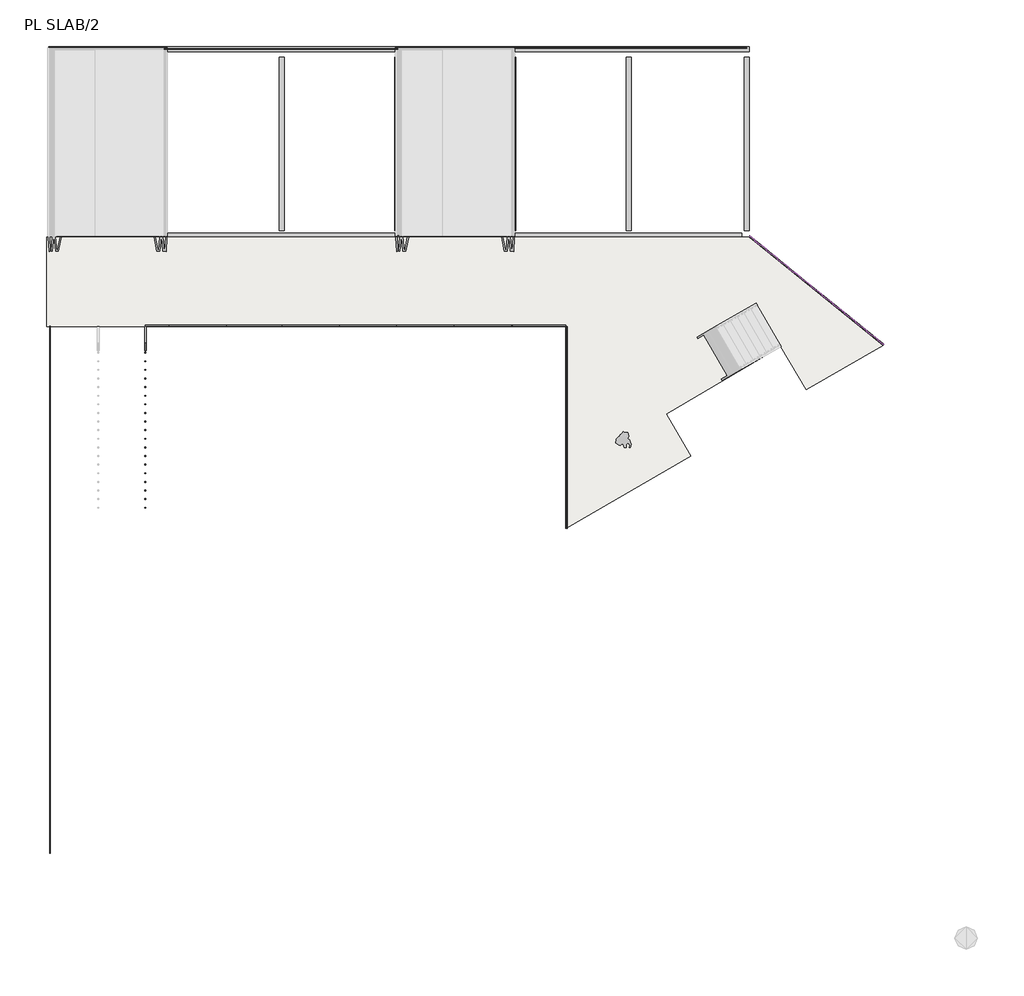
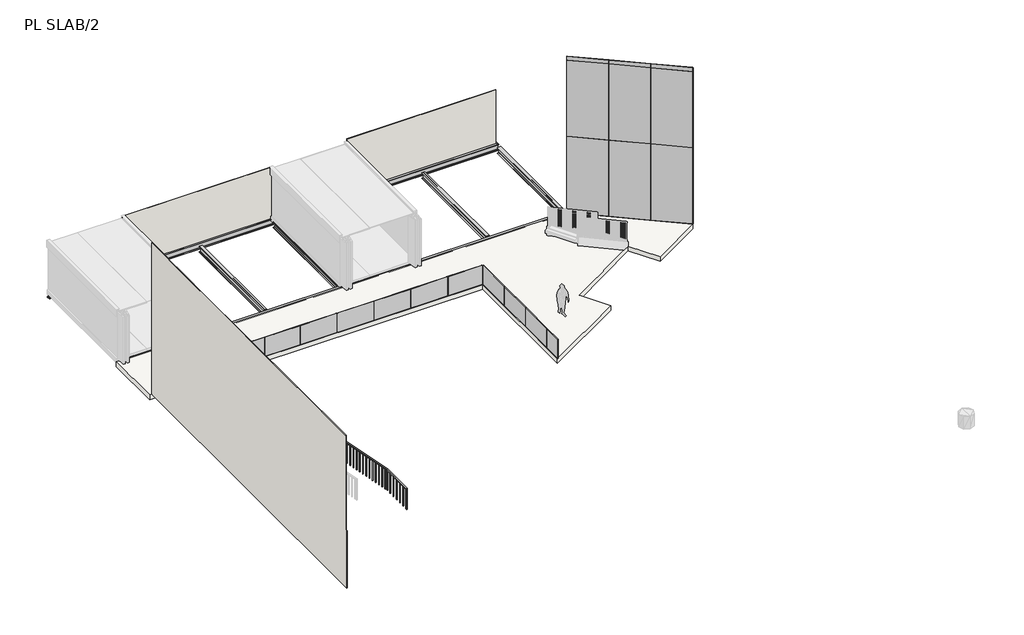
# One storey, part 1 of 2: 25 plates, 7 beams, 3 walls, 1 railing, 1 slab.
"""IFC4 building model written with IfcOpenShell, lengths in millimetres."""

from ifc_helpers import new_model, si_unit, frame, origin, place, context, project, spatial, polyline, outline, extrude, faceted_brep, transform, mapped, element, save
from components import ub_universal_beams_ub305x165x40_a89eb652, ub_universal_beams_ub305x165x40_de42b84e, ub_universal_beams_ub305x165x40_bd95d4e6, system_panel_glazed_66cf68f7, system_panel_glazed_c6e9b6dd, system_panel_glazed_a0877fd3, system_panel_glazed_3ddc4d3d, system_panel_glazed_1c1d8f5b, system_panel_glazed_525ed004, system_panel_glazed_75f56514, system_panel_glazed_65586980, system_panel_glazed_ac56bfe5, system_panel_glazed_b6ab2c9f

model = new_model("IFC4")

# Units and contexts
model_context = context("Model", 3, world=origin())
ifc_project = project(units=[si_unit("LENGTHUNIT", "METRE", prefix="MILLI")], contexts=[model_context])

# Site, building, storey
site = spatial("IfcSite", under=ifc_project)
building = spatial("IfcBuilding", under=site)
storey = spatial("IfcBuildingStorey", under=building, Name="PL SLAB/2", Elevation=3300.0)

# Beams
placement = place(None, origin())
ub_universal_beams_ub305x165x40_shape = ub_universal_beams_ub305x165x40_a89eb652(model_context)
element("IfcBeam", 1, ObjectType="UB-Universal Beams : UB305x165x40", at=placement, inside=storey, context=model_context, shape_type="MappedRepresentation", body=[
    mapped(ub_universal_beams_ub305x165x40_shape, transform((3293.8958184, 35151.9809735, 3148.3), x_axis=(1.0, 0.0, 0.0), y_axis=(0.0, 1.0, 0.0), z_axis=(0.0, 0.0, 1.0))),
])
ub_universal_beams_ub305x165x40_2_shape = ub_universal_beams_ub305x165x40_de42b84e(model_context)
element("IfcBeam", 2, ObjectType="UB-Universal Beams : UB305x165x40", at=placement, inside=storey, context=model_context, shape_type="MappedRepresentation", body=[
    mapped(ub_universal_beams_ub305x165x40_2_shape, transform((-2187.5596017, 29190.0288254, 3148.3), x_axis=(1.0, 0.0, 0.0), y_axis=(0.0, 1.0, 0.0), z_axis=(0.0, 0.0, 1.0))),
])
ub_universal_beams_ub305x165x40_3_shape = ub_universal_beams_ub305x165x40_bd95d4e6(model_context)
element("IfcBeam", 3, ObjectType="UB-Universal Beams : UB305x165x40", at=placement, inside=storey, context=model_context, shape_type="MappedRepresentation", body=[
    mapped(ub_universal_beams_ub305x165x40_3_shape, transform((-5929.1066547, 32121.0048994, 3148.3), x_axis=(0.0, -1.0, 0.0), y_axis=(1.0, 0.0, 0.0), z_axis=(0.0, 0.0, 1.0))),
])
element("IfcBeam", 4, ObjectType="UB-Universal Beams : UB305x165x40", at=placement, inside=storey, context=model_context, shape_type="MappedRepresentation", body=[
    mapped(ub_universal_beams_ub305x165x40_3_shape, transform((-2245.9725728, 32121.0048994, 3148.3), x_axis=(0.0, -1.0, 0.0), y_axis=(1.0, 0.0, 0.0), z_axis=(0.0, 0.0, 1.0))),
])
element("IfcBeam", 5, ObjectType="UB-Universal Beams : UB305x165x40", at=placement, inside=storey, context=model_context, shape_type="MappedRepresentation", body=[
    mapped(ub_universal_beams_ub305x165x40_3_shape, transform((1448.4037035, 32121.0048994, 3148.3), x_axis=(0.0, -1.0, 0.0), y_axis=(1.0, 0.0, 0.0), z_axis=(0.0, 0.0, 1.0))),
])
element("IfcBeam", 6, ObjectType="UB-Universal Beams : UB305x165x40", at=placement, inside=storey, context=model_context, shape_type="MappedRepresentation", body=[
    mapped(ub_universal_beams_ub305x165x40_3_shape, transform((5139.3879332, 32121.0048994, 3148.3), x_axis=(0.0, -1.0, 0.0), y_axis=(1.0, 0.0, 0.0), z_axis=(0.0, 0.0, 1.0))),
])
element("IfcBeam", 7, ObjectType="UB-Universal Beams : UB305x165x40", at=placement, inside=storey, context=model_context, shape_type="MappedRepresentation", body=[
    mapped(ub_universal_beams_ub305x165x40_3_shape, transform((8901.9425222, 32121.0048994, 3148.3), x_axis=(0.0, -1.0, 0.0), y_axis=(1.0, 0.0, 0.0), z_axis=(0.0, 0.0, 1.0))),
])

# Plates
system_panel_glazed_shape = system_panel_glazed_66cf68f7(model_context)
element("IfcPlate", 8, ObjectType="System Panel : Glazed", at=placement, inside=storey, context=model_context, shape_type="MappedRepresentation", body=[
    mapped(system_panel_glazed_shape, transform((9680.2491906, 28580.5191586, 3300.0), x_axis=(0.7768471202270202, -0.6296892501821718, 0.0), y_axis=(0.6296892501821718, 0.7768471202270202, 0.0), z_axis=(0.0, 0.0, 1.0))),
])
element("IfcPlate", 9, ObjectType="System Panel : Glazed", at=placement, inside=storey, context=model_context, shape_type="MappedRepresentation", body=[
    mapped(system_panel_glazed_shape, transform((11101.8794208, 27428.1878307, 3300.0), x_axis=(0.7768471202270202, -0.6296892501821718, 0.0), y_axis=(0.6296892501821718, 0.7768471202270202, 0.0), z_axis=(0.0, 0.0, 1.0))),
])
element("IfcPlate", 10, ObjectType="System Panel : Glazed", at=placement, inside=storey, context=model_context, shape_type="MappedRepresentation", body=[
    mapped(system_panel_glazed_shape, transform((12523.5096508, 26275.8565028, 3300.0), x_axis=(0.7768471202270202, -0.6296892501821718, 0.0), y_axis=(0.6296892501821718, 0.7768471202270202, 0.0), z_axis=(0.0, 0.0, 1.0))),
])
element("IfcPlate", 11, ObjectType="System Panel : Glazed", at=placement, inside=storey, context=model_context, shape_type="MappedRepresentation", body=[
    mapped(system_panel_glazed_shape, transform((9680.2491906, 28580.5191586, 7300.0), x_axis=(0.7768471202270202, -0.6296892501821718, 0.0), y_axis=(0.6296892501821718, 0.7768471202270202, 0.0), z_axis=(0.0, 0.0, 1.0))),
])
element("IfcPlate", 12, ObjectType="System Panel : Glazed", at=placement, inside=storey, context=model_context, shape_type="MappedRepresentation", body=[
    mapped(system_panel_glazed_shape, transform((11101.8794208, 27428.1878307, 7300.0), x_axis=(0.7768471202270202, -0.6296892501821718, 0.0), y_axis=(0.6296892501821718, 0.7768471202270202, 0.0), z_axis=(0.0, 0.0, 1.0))),
])
element("IfcPlate", 13, ObjectType="System Panel : Glazed", at=placement, inside=storey, context=model_context, shape_type="MappedRepresentation", body=[
    mapped(system_panel_glazed_shape, transform((12523.5096508, 26275.8565028, 7300.0), x_axis=(0.7768471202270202, -0.6296892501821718, 0.0), y_axis=(0.6296892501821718, 0.7768471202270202, 0.0), z_axis=(0.0, 0.0, 1.0))),
])
system_panel_glazed_2_shape = system_panel_glazed_c6e9b6dd(model_context)
element("IfcPlate", 14, ObjectType="System Panel : Glazed", at=placement, inside=storey, context=model_context, shape_type="MappedRepresentation", body=[
    mapped(system_panel_glazed_2_shape, transform((-9906.8179811, 26292.1681881, 3300.0), x_axis=(1.0, 0.0, 0.0), y_axis=(0.0, 1.0, 0.0), z_axis=(0.0, 0.0, 1.0))),
])
system_panel_glazed_3_shape = system_panel_glazed_a0877fd3(model_context)
element("IfcPlate", 15, ObjectType="System Panel : Glazed", at=placement, inside=storey, context=model_context, shape_type="MappedRepresentation", body=[
    mapped(system_panel_glazed_3_shape, transform((-8616.6874982, 26292.1681881, 3300.0), x_axis=(1.0, 0.0, 0.0), y_axis=(0.0, 1.0, 0.0), z_axis=(0.0, 0.0, 1.0))),
])
element("IfcPlate", 16, ObjectType="System Panel : Glazed", at=placement, inside=storey, context=model_context, shape_type="MappedRepresentation", body=[
    mapped(system_panel_glazed_3_shape, transform((-5016.6874982, 26292.1681881, 3300.0), x_axis=(1.0, 0.0, 0.0), y_axis=(0.0, 1.0, 0.0), z_axis=(0.0, 0.0, 1.0))),
])
element("IfcPlate", 17, ObjectType="System Panel : Glazed", at=placement, inside=storey, context=model_context, shape_type="MappedRepresentation", body=[
    mapped(system_panel_glazed_3_shape, transform((-3186.6874982, 26292.1681881, 3300.0), x_axis=(1.0, 0.0, 0.0), y_axis=(0.0, 1.0, 0.0), z_axis=(0.0, 0.0, 1.0))),
])
element("IfcPlate", 18, ObjectType="System Panel : Glazed", at=placement, inside=storey, context=model_context, shape_type="MappedRepresentation", body=[
    mapped(system_panel_glazed_3_shape, transform((-1356.6874982, 26292.1681881, 3300.0), x_axis=(1.0, 0.0, 0.0), y_axis=(0.0, 1.0, 0.0), z_axis=(0.0, 0.0, 1.0))),
])
element("IfcPlate", 19, ObjectType="System Panel : Glazed", at=placement, inside=storey, context=model_context, shape_type="MappedRepresentation", body=[
    mapped(system_panel_glazed_3_shape, transform((473.312502, 26292.1681881, 3300.0), x_axis=(1.0, 0.0, 0.0), y_axis=(0.0, 1.0, 0.0), z_axis=(0.0, 0.0, 1.0))),
])
element("IfcPlate", 20, ObjectType="System Panel : Glazed", at=placement, inside=storey, context=model_context, shape_type="MappedRepresentation", body=[
    mapped(system_panel_glazed_3_shape, transform((3132.0366131, 25377.1681879, 3300.0), x_axis=(0.0, -1.0, 0.0), y_axis=(1.0, 0.0, 0.0), z_axis=(0.0, 0.0, 1.0))),
])
element("IfcPlate", 21, ObjectType="System Panel : Glazed", at=placement, inside=storey, context=model_context, shape_type="MappedRepresentation", body=[
    mapped(system_panel_glazed_3_shape, transform((3132.0366131, 23547.1681878, 3300.0), x_axis=(0.0, -1.0, 0.0), y_axis=(1.0, 0.0, 0.0), z_axis=(0.0, 0.0, 1.0))),
])
element("IfcPlate", 22, ObjectType="System Panel : Glazed", at=placement, inside=storey, context=model_context, shape_type="MappedRepresentation", body=[
    mapped(system_panel_glazed_3_shape, transform((3132.0366131, 21717.1681878, 3300.0), x_axis=(0.0, -1.0, 0.0), y_axis=(1.0, 0.0, 0.0), z_axis=(0.0, 0.0, 1.0))),
])
system_panel_glazed_4_shape = system_panel_glazed_3ddc4d3d(model_context)
element("IfcPlate", 23, ObjectType="System Panel : Glazed", at=placement, inside=storey, context=model_context, shape_type="MappedRepresentation", body=[
    mapped(system_panel_glazed_4_shape, transform((-6816.6874982, 26292.1681881, 3300.0), x_axis=(1.0, 0.0, 0.0), y_axis=(0.0, 1.0, 0.0), z_axis=(0.0, 0.0, 1.0))),
])
system_panel_glazed_5_shape = system_panel_glazed_1c1d8f5b(model_context)
element("IfcPlate", 24, ObjectType="System Panel : Glazed", at=placement, inside=storey, context=model_context, shape_type="MappedRepresentation", body=[
    mapped(system_panel_glazed_5_shape, transform((1408.3125018, 26292.1681881, 3300.0), x_axis=(1.0, 0.0, 0.0), y_axis=(0.0, 1.0, 0.0), z_axis=(0.0, 0.0, 1.0))),
])
system_panel_glazed_6_shape = system_panel_glazed_525ed004(model_context)
element("IfcPlate", 25, ObjectType="System Panel : Glazed", at=placement, inside=storey, context=model_context, shape_type="MappedRepresentation", body=[
    mapped(system_panel_glazed_6_shape, transform((2280.1745574, 26292.1681881, 3300.0), x_axis=(1.0, 0.0, 0.0), y_axis=(0.0, 1.0, 0.0), z_axis=(0.0, 0.0, 1.0))),
])
system_panel_glazed_7_shape = system_panel_glazed_75f56514(model_context)
element("IfcPlate", 26, ObjectType="System Panel : Glazed", at=placement, inside=storey, context=model_context, shape_type="MappedRepresentation", body=[
    mapped(system_panel_glazed_7_shape, transform((3132.0366131, 20331.6230881, 3300.0), x_axis=(0.0, -1.0, 0.0), y_axis=(1.0, 0.0, 0.0), z_axis=(0.0, 0.0, 1.0))),
])
system_panel_glazed_8_shape = system_panel_glazed_65586980(model_context)
element("IfcPlate", 27, ObjectType="System Panel : Glazed", at=placement, inside=storey, context=model_context, shape_type="MappedRepresentation", body=[
    mapped(system_panel_glazed_8_shape, transform((13236.50575, 25697.9229977, 3300.0), x_axis=(0.7768471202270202, -0.6296892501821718, 0.0), y_axis=(0.6296892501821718, 0.7768471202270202, 0.0), z_axis=(0.0, 0.0, 1.0))),
])
element("IfcPlate", 28, ObjectType="System Panel : Glazed", at=placement, inside=storey, context=model_context, shape_type="MappedRepresentation", body=[
    mapped(system_panel_glazed_8_shape, transform((13236.50575, 25697.9229977, 7300.0), x_axis=(0.7768471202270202, -0.6296892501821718, 0.0), y_axis=(0.6296892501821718, 0.7768471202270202, 0.0), z_axis=(0.0, 0.0, 1.0))),
])
system_panel_glazed_9_shape = system_panel_glazed_ac56bfe5(model_context)
element("IfcPlate", 29, ObjectType="System Panel : Glazed", at=placement, inside=storey, context=model_context, shape_type="MappedRepresentation", body=[
    mapped(system_panel_glazed_9_shape, transform((9680.2491906, 28580.5191586, 11300.0), x_axis=(0.7768471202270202, -0.6296892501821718, 0.0), y_axis=(0.6296892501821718, 0.7768471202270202, 0.0), z_axis=(0.0, 0.0, 1.0))),
])
element("IfcPlate", 30, ObjectType="System Panel : Glazed", at=placement, inside=storey, context=model_context, shape_type="MappedRepresentation", body=[
    mapped(system_panel_glazed_9_shape, transform((11101.8794208, 27428.1878307, 11300.0), x_axis=(0.7768471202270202, -0.6296892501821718, 0.0), y_axis=(0.6296892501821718, 0.7768471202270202, 0.0), z_axis=(0.0, 0.0, 1.0))),
])
element("IfcPlate", 31, ObjectType="System Panel : Glazed", at=placement, inside=storey, context=model_context, shape_type="MappedRepresentation", body=[
    mapped(system_panel_glazed_9_shape, transform((12523.5096508, 26275.8565028, 11300.0), x_axis=(0.7768471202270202, -0.6296892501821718, 0.0), y_axis=(0.6296892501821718, 0.7768471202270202, 0.0), z_axis=(0.0, 0.0, 1.0))),
])
system_panel_glazed_10_shape = system_panel_glazed_b6ab2c9f(model_context)
element("IfcPlate", 32, ObjectType="System Panel : Glazed", at=placement, inside=storey, context=model_context, shape_type="MappedRepresentation", body=[
    mapped(system_panel_glazed_10_shape, transform((13236.50575, 25697.9229977, 11300.0), x_axis=(0.7768471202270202, -0.6296892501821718, 0.0), y_axis=(0.6296892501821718, 0.7768471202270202, 0.0), z_axis=(0.0, 0.0, 1.0))),
])

# Railing
element("IfcRailing", 33, ObjectType="1100mm", at=placement, inside=storey, context=model_context, shape_type="SolidModel", body=[
    faceted_brep([(-10256.9484639, 26292.1681881, 4400.0), (-10256.9484639, 26292.1681881, 4349.0100845), (-10306.9484639, 26292.1681881, 4349.0100845), (-10306.9484639, 26292.1681881, 4400.0), (-10256.9484639, 11290.0288254, 7400.0), (-10256.9484639, 11285.078542, 7350.0), (-10306.9484639, 11285.078542, 7350.0), (-10306.9484639, 11290.0288254, 7400.0), (-10256.9484639, 9590.0288254, 7400.0), (-10306.9484639, 9590.0288254, 7400.0), (-10306.9484639, 9590.0288254, 7350.0), (-10256.9484639, 9590.0288254, 7350.0)], [[[0, 1, 2, 3]], [[1, 0, 4, 5]], [[2, 1, 5, 6]], [[3, 2, 6, 7]], [[0, 3, 7, 4]], [[8, 9, 10, 11]], [[5, 4, 8, 11]], [[6, 5, 11, 10]], [[7, 6, 10, 9]], [[4, 7, 9, 8]]]),
    extrude(outline(polyline([(-10294.4484639, 9652.5288254), (-10269.4484639, 9652.5288254), (-10269.4484639, 9627.5288254), (-10294.4484639, 9627.5288254), (-10294.4484639, 9652.5288254)])), frame((0.0, 0.0, 6300.0), z_axis=(0.0, 0.0, 1.0), x_axis=(1.0, 0.0, 0.0)), (0.0, 0.0, 1.0), 1050.0),
    extrude(outline(polyline([(-10294.4484639, 9927.5288254), (-10269.4484639, 9927.5288254), (-10269.4484639, 9902.5288254), (-10294.4484639, 9902.5288254), (-10294.4484639, 9927.5288254)])), frame((0.0, 0.0, 6300.0), z_axis=(0.0, 0.0, 1.0), x_axis=(1.0, 0.0, 0.0)), (0.0, 0.0, 1.0), 1050.0),
    extrude(outline(polyline([(-10294.4484639, 10202.5288254), (-10269.4484639, 10202.5288254), (-10269.4484639, 10177.5288254), (-10294.4484639, 10177.5288254), (-10294.4484639, 10202.5288254)])), frame((0.0, 0.0, 6300.0), z_axis=(0.0, 0.0, 1.0), x_axis=(1.0, 0.0, 0.0)), (0.0, 0.0, 1.0), 1050.0),
    extrude(outline(polyline([(-10294.4484639, 10477.5288254), (-10269.4484639, 10477.5288254), (-10269.4484639, 10452.5288254), (-10294.4484639, 10452.5288254), (-10294.4484639, 10477.5288254)])), frame((0.0, 0.0, 6300.0), z_axis=(0.0, 0.0, 1.0), x_axis=(1.0, 0.0, 0.0)), (0.0, 0.0, 1.0), 1050.0),
    extrude(outline(polyline([(-10294.4484639, 10752.5288254), (-10269.4484639, 10752.5288254), (-10269.4484639, 10727.5288254), (-10294.4484639, 10727.5288254), (-10294.4484639, 10752.5288254)])), frame((0.0, 0.0, 6300.0), z_axis=(0.0, 0.0, 1.0), x_axis=(1.0, 0.0, 0.0)), (0.0, 0.0, 1.0), 1050.0),
    extrude(outline(polyline([(-10294.4484639, 11027.5288254), (-10269.4484639, 11027.5288254), (-10269.4484639, 11002.5288254), (-10294.4484639, 11002.5288254), (-10294.4484639, 11027.5288254)])), frame((0.0, 0.0, 6300.0), z_axis=(0.0, 0.0, 1.0), x_axis=(1.0, 0.0, 0.0)), (0.0, 0.0, 1.0), 1050.0),
    extrude(outline(polyline([(11454.6681881, 7316.0869076), (11454.6681881, 6269.5764666), (11429.6681881, 6269.5764666), (11429.6681881, 7321.0861946), (11454.6681881, 7316.0869076)])), frame((-10294.4484639, 0.0, 0.0), z_axis=(1.0, 0.0, 0.0), x_axis=(0.0, 1.0, 0.0)), (0.0, 0.0, 1.0), 25.0),
    extrude(outline(polyline([(11729.6681881, 7261.0947508), (11729.6681881, 6214.5843098), (11704.6681881, 6214.5843098), (11704.6681881, 7266.0940378), (11729.6681881, 7261.0947508)])), frame((-10294.4484639, 0.0, 0.0), z_axis=(1.0, 0.0, 0.0), x_axis=(0.0, 1.0, 0.0)), (0.0, 0.0, 1.0), 25.0),
    extrude(outline(polyline([(12004.6681881, 7206.102594), (12004.6681881, 6159.592153), (11979.6681881, 6159.592153), (11979.6681881, 7211.101881), (12004.6681881, 7206.102594)])), frame((-10294.4484639, 0.0, 0.0), z_axis=(1.0, 0.0, 0.0), x_axis=(0.0, 1.0, 0.0)), (0.0, 0.0, 1.0), 25.0),
    extrude(outline(polyline([(12279.6681881, 7151.1104373), (12279.6681881, 6104.5999962), (12254.6681881, 6104.5999962), (12254.6681881, 7156.1097242), (12279.6681881, 7151.1104373)])), frame((-10294.4484639, 0.0, 0.0), z_axis=(1.0, 0.0, 0.0), x_axis=(0.0, 1.0, 0.0)), (0.0, 0.0, 1.0), 25.0),
    extrude(outline(polyline([(12554.6681881, 7096.1182805), (12554.6681881, 6049.6078394), (12529.6681881, 6049.6078394), (12529.6681881, 7101.1175675), (12554.6681881, 7096.1182805)])), frame((-10294.4484639, 0.0, 0.0), z_axis=(1.0, 0.0, 0.0), x_axis=(0.0, 1.0, 0.0)), (0.0, 0.0, 1.0), 25.0),
    extrude(outline(polyline([(12829.6681881, 7041.1261237), (12829.6681881, 5994.6156827), (12804.6681881, 5994.6156827), (12804.6681881, 7046.1254107), (12829.6681881, 7041.1261237)])), frame((-10294.4484639, 0.0, 0.0), z_axis=(1.0, 0.0, 0.0), x_axis=(0.0, 1.0, 0.0)), (0.0, 0.0, 1.0), 25.0),
    extrude(outline(polyline([(13104.6681881, 6986.1339669), (13104.6681881, 5939.6235259), (13079.6681881, 5939.6235259), (13079.6681881, 6991.1332539), (13104.6681881, 6986.1339669)])), frame((-10294.4484639, 0.0, 0.0), z_axis=(1.0, 0.0, 0.0), x_axis=(0.0, 1.0, 0.0)), (0.0, 0.0, 1.0), 25.0),
    extrude(outline(polyline([(13379.6681881, 6931.1418101), (13379.6681881, 5884.6313691), (13354.6681881, 5884.6313691), (13354.6681881, 6936.1410971), (13379.6681881, 6931.1418101)])), frame((-10294.4484639, 0.0, 0.0), z_axis=(1.0, 0.0, 0.0), x_axis=(0.0, 1.0, 0.0)), (0.0, 0.0, 1.0), 25.0),
    extrude(outline(polyline([(13654.6681881, 6876.1496533), (13654.6681881, 5829.6392123), (13629.6681881, 5829.6392123), (13629.6681881, 6881.1489403), (13654.6681881, 6876.1496533)])), frame((-10294.4484639, 0.0, 0.0), z_axis=(1.0, 0.0, 0.0), x_axis=(0.0, 1.0, 0.0)), (0.0, 0.0, 1.0), 25.0),
    extrude(outline(polyline([(13929.6681881, 6821.1574965), (13929.6681881, 5774.6470555), (13904.6681881, 5774.6470555), (13904.6681881, 6826.1567835), (13929.6681881, 6821.1574965)])), frame((-10294.4484639, 0.0, 0.0), z_axis=(1.0, 0.0, 0.0), x_axis=(0.0, 1.0, 0.0)), (0.0, 0.0, 1.0), 25.0),
    extrude(outline(polyline([(14204.6681881, 6766.1653397), (14204.6681881, 5719.6548987), (14179.6681881, 5719.6548987), (14179.6681881, 6771.1646267), (14204.6681881, 6766.1653397)])), frame((-10294.4484639, 0.0, 0.0), z_axis=(1.0, 0.0, 0.0), x_axis=(0.0, 1.0, 0.0)), (0.0, 0.0, 1.0), 25.0),
    extrude(outline(polyline([(14479.6681881, 6711.1731829), (14479.6681881, 5664.6627419), (14454.6681881, 5664.6627419), (14454.6681881, 6716.1724699), (14479.6681881, 6711.1731829)])), frame((-10294.4484639, 0.0, 0.0), z_axis=(1.0, 0.0, 0.0), x_axis=(0.0, 1.0, 0.0)), (0.0, 0.0, 1.0), 25.0),
    extrude(outline(polyline([(14754.6681881, 6656.1810262), (14754.6681881, 5609.6705851), (14729.6681881, 5609.6705851), (14729.6681881, 6661.1803131), (14754.6681881, 6656.1810262)])), frame((-10294.4484639, 0.0, 0.0), z_axis=(1.0, 0.0, 0.0), x_axis=(0.0, 1.0, 0.0)), (0.0, 0.0, 1.0), 25.0),
    extrude(outline(polyline([(15029.6681881, 6601.1888694), (15029.6681881, 5554.6784283), (15004.6681881, 5554.6784283), (15004.6681881, 6606.1881564), (15029.6681881, 6601.1888694)])), frame((-10294.4484639, 0.0, 0.0), z_axis=(1.0, 0.0, 0.0), x_axis=(0.0, 1.0, 0.0)), (0.0, 0.0, 1.0), 25.0),
    extrude(outline(polyline([(15304.6681881, 6546.1967126), (15304.6681881, 5499.6862716), (15279.6681881, 5499.6862716), (15279.6681881, 6551.1959996), (15304.6681881, 6546.1967126)])), frame((-10294.4484639, 0.0, 0.0), z_axis=(1.0, 0.0, 0.0), x_axis=(0.0, 1.0, 0.0)), (0.0, 0.0, 1.0), 25.0),
    extrude(outline(polyline([(15579.6681881, 6491.2045558), (15579.6681881, 5444.6941148), (15554.6681881, 5444.6941148), (15554.6681881, 6496.2038428), (15579.6681881, 6491.2045558)])), frame((-10294.4484639, 0.0, 0.0), z_axis=(1.0, 0.0, 0.0), x_axis=(0.0, 1.0, 0.0)), (0.0, 0.0, 1.0), 25.0),
    extrude(outline(polyline([(15854.6681881, 6436.212399), (15854.6681881, 5389.701958), (15829.6681881, 5389.701958), (15829.6681881, 6441.211686), (15854.6681881, 6436.212399)])), frame((-10294.4484639, 0.0, 0.0), z_axis=(1.0, 0.0, 0.0), x_axis=(0.0, 1.0, 0.0)), (0.0, 0.0, 1.0), 25.0),
    extrude(outline(polyline([(16129.6681881, 6381.2202422), (16129.6681881, 5334.7098012), (16104.6681881, 5334.7098012), (16104.6681881, 6386.2195292), (16129.6681881, 6381.2202422)])), frame((-10294.4484639, 0.0, 0.0), z_axis=(1.0, 0.0, 0.0), x_axis=(0.0, 1.0, 0.0)), (0.0, 0.0, 1.0), 25.0),
    extrude(outline(polyline([(16404.6681881, 6326.2280854), (16404.6681881, 5279.7176444), (16379.6681881, 5279.7176444), (16379.6681881, 6331.2273724), (16404.6681881, 6326.2280854)])), frame((-10294.4484639, 0.0, 0.0), z_axis=(1.0, 0.0, 0.0), x_axis=(0.0, 1.0, 0.0)), (0.0, 0.0, 1.0), 25.0),
    extrude(outline(polyline([(16679.6681881, 6271.2359286), (16679.6681881, 5224.7254876), (16654.6681881, 5224.7254876), (16654.6681881, 6276.2352156), (16679.6681881, 6271.2359286)])), frame((-10294.4484639, 0.0, 0.0), z_axis=(1.0, 0.0, 0.0), x_axis=(0.0, 1.0, 0.0)), (0.0, 0.0, 1.0), 25.0),
    extrude(outline(polyline([(16954.6681881, 6216.2437718), (16954.6681881, 5169.7333308), (16929.6681881, 5169.7333308), (16929.6681881, 6221.2430588), (16954.6681881, 6216.2437718)])), frame((-10294.4484639, 0.0, 0.0), z_axis=(1.0, 0.0, 0.0), x_axis=(0.0, 1.0, 0.0)), (0.0, 0.0, 1.0), 25.0),
    extrude(outline(polyline([(17229.6681881, 6161.2516151), (17229.6681881, 5114.741174), (17204.6681881, 5114.741174), (17204.6681881, 6166.250902), (17229.6681881, 6161.2516151)])), frame((-10294.4484639, 0.0, 0.0), z_axis=(1.0, 0.0, 0.0), x_axis=(0.0, 1.0, 0.0)), (0.0, 0.0, 1.0), 25.0),
    extrude(outline(polyline([(17504.6681881, 6106.2594583), (17504.6681881, 5059.7490172), (17479.6681881, 5059.7490172), (17479.6681881, 6111.2587452), (17504.6681881, 6106.2594583)])), frame((-10294.4484639, 0.0, 0.0), z_axis=(1.0, 0.0, 0.0), x_axis=(0.0, 1.0, 0.0)), (0.0, 0.0, 1.0), 25.0),
    extrude(outline(polyline([(17779.6681881, 6051.2673015), (17779.6681881, 5004.7568605), (17754.6681881, 5004.7568605), (17754.6681881, 6056.2665885), (17779.6681881, 6051.2673015)])), frame((-10294.4484639, 0.0, 0.0), z_axis=(1.0, 0.0, 0.0), x_axis=(0.0, 1.0, 0.0)), (0.0, 0.0, 1.0), 25.0),
    extrude(outline(polyline([(18054.6681881, 5996.2751447), (18054.6681881, 4949.7647037), (18029.6681881, 4949.7647037), (18029.6681881, 6001.2744317), (18054.6681881, 5996.2751447)])), frame((-10294.4484639, 0.0, 0.0), z_axis=(1.0, 0.0, 0.0), x_axis=(0.0, 1.0, 0.0)), (0.0, 0.0, 1.0), 25.0),
    extrude(outline(polyline([(18329.6681881, 5941.2829879), (18329.6681881, 4894.7725469), (18304.6681881, 4894.7725469), (18304.6681881, 5946.2822749), (18329.6681881, 5941.2829879)])), frame((-10294.4484639, 0.0, 0.0), z_axis=(1.0, 0.0, 0.0), x_axis=(0.0, 1.0, 0.0)), (0.0, 0.0, 1.0), 25.0),
    extrude(outline(polyline([(18604.6681881, 5886.2908311), (18604.6681881, 4839.7803901), (18579.6681881, 4839.7803901), (18579.6681881, 5891.2901181), (18604.6681881, 5886.2908311)])), frame((-10294.4484639, 0.0, 0.0), z_axis=(1.0, 0.0, 0.0), x_axis=(0.0, 1.0, 0.0)), (0.0, 0.0, 1.0), 25.0),
    extrude(outline(polyline([(18879.6681881, 5831.2986743), (18879.6681881, 4784.7882333), (18854.6681881, 4784.7882333), (18854.6681881, 5836.2979613), (18879.6681881, 5831.2986743)])), frame((-10294.4484639, 0.0, 0.0), z_axis=(1.0, 0.0, 0.0), x_axis=(0.0, 1.0, 0.0)), (0.0, 0.0, 1.0), 25.0),
    extrude(outline(polyline([(19154.6681881, 5776.3065175), (19154.6681881, 4729.7960765), (19129.6681881, 4729.7960765), (19129.6681881, 5781.3058045), (19154.6681881, 5776.3065175)])), frame((-10294.4484639, 0.0, 0.0), z_axis=(1.0, 0.0, 0.0), x_axis=(0.0, 1.0, 0.0)), (0.0, 0.0, 1.0), 25.0),
    extrude(outline(polyline([(19429.6681881, 5721.3143607), (19429.6681881, 4674.8039197), (19404.6681881, 4674.8039197), (19404.6681881, 5726.3136477), (19429.6681881, 5721.3143607)])), frame((-10294.4484639, 0.0, 0.0), z_axis=(1.0, 0.0, 0.0), x_axis=(0.0, 1.0, 0.0)), (0.0, 0.0, 1.0), 25.0),
    extrude(outline(polyline([(19704.6681881, 5666.322204), (19704.6681881, 4619.8117629), (19679.6681881, 4619.8117629), (19679.6681881, 5671.3214909), (19704.6681881, 5666.322204)])), frame((-10294.4484639, 0.0, 0.0), z_axis=(1.0, 0.0, 0.0), x_axis=(0.0, 1.0, 0.0)), (0.0, 0.0, 1.0), 25.0),
    extrude(outline(polyline([(19979.6681881, 5611.3300472), (19979.6681881, 4564.8196061), (19954.6681881, 4564.8196061), (19954.6681881, 5616.3293341), (19979.6681881, 5611.3300472)])), frame((-10294.4484639, 0.0, 0.0), z_axis=(1.0, 0.0, 0.0), x_axis=(0.0, 1.0, 0.0)), (0.0, 0.0, 1.0), 25.0),
    extrude(outline(polyline([(20254.6681881, 5556.3378904), (20254.6681881, 4509.8274494), (20229.6681881, 4509.8274494), (20229.6681881, 5561.3371774), (20254.6681881, 5556.3378904)])), frame((-10294.4484639, 0.0, 0.0), z_axis=(1.0, 0.0, 0.0), x_axis=(0.0, 1.0, 0.0)), (0.0, 0.0, 1.0), 25.0),
    extrude(outline(polyline([(20529.6681881, 5501.3457336), (20529.6681881, 4454.8352926), (20504.6681881, 4454.8352926), (20504.6681881, 5506.3450206), (20529.6681881, 5501.3457336)])), frame((-10294.4484639, 0.0, 0.0), z_axis=(1.0, 0.0, 0.0), x_axis=(0.0, 1.0, 0.0)), (0.0, 0.0, 1.0), 25.0),
    extrude(outline(polyline([(20804.6681881, 5446.3535768), (20804.6681881, 4399.8431358), (20779.6681881, 4399.8431358), (20779.6681881, 5451.3528638), (20804.6681881, 5446.3535768)])), frame((-10294.4484639, 0.0, 0.0), z_axis=(1.0, 0.0, 0.0), x_axis=(0.0, 1.0, 0.0)), (0.0, 0.0, 1.0), 25.0),
    extrude(outline(polyline([(21079.6681881, 5391.36142), (21079.6681881, 4344.850979), (21054.6681881, 4344.850979), (21054.6681881, 5396.360707), (21079.6681881, 5391.36142)])), frame((-10294.4484639, 0.0, 0.0), z_axis=(1.0, 0.0, 0.0), x_axis=(0.0, 1.0, 0.0)), (0.0, 0.0, 1.0), 25.0),
    extrude(outline(polyline([(21354.6681881, 5336.3692632), (21354.6681881, 4289.8588222), (21329.6681881, 4289.8588222), (21329.6681881, 5341.3685502), (21354.6681881, 5336.3692632)])), frame((-10294.4484639, 0.0, 0.0), z_axis=(1.0, 0.0, 0.0), x_axis=(0.0, 1.0, 0.0)), (0.0, 0.0, 1.0), 25.0),
    extrude(outline(polyline([(21629.6681881, 5281.3771064), (21629.6681881, 4234.8666654), (21604.6681881, 4234.8666654), (21604.6681881, 5286.3763934), (21629.6681881, 5281.3771064)])), frame((-10294.4484639, 0.0, 0.0), z_axis=(1.0, 0.0, 0.0), x_axis=(0.0, 1.0, 0.0)), (0.0, 0.0, 1.0), 25.0),
    extrude(outline(polyline([(21904.6681881, 5226.3849496), (21904.6681881, 4179.8745086), (21879.6681881, 4179.8745086), (21879.6681881, 5231.3842366), (21904.6681881, 5226.3849496)])), frame((-10294.4484639, 0.0, 0.0), z_axis=(1.0, 0.0, 0.0), x_axis=(0.0, 1.0, 0.0)), (0.0, 0.0, 1.0), 25.0),
    extrude(outline(polyline([(22179.6681881, 5171.3927929), (22179.6681881, 4124.8823518), (22154.6681881, 4124.8823518), (22154.6681881, 5176.3920798), (22179.6681881, 5171.3927929)])), frame((-10294.4484639, 0.0, 0.0), z_axis=(1.0, 0.0, 0.0), x_axis=(0.0, 1.0, 0.0)), (0.0, 0.0, 1.0), 25.0),
    extrude(outline(polyline([(22454.6681881, 5116.4006361), (22454.6681881, 4069.890195), (22429.6681881, 4069.890195), (22429.6681881, 5121.399923), (22454.6681881, 5116.4006361)])), frame((-10294.4484639, 0.0, 0.0), z_axis=(1.0, 0.0, 0.0), x_axis=(0.0, 1.0, 0.0)), (0.0, 0.0, 1.0), 25.0),
    extrude(outline(polyline([(22729.6681881, 5061.4084793), (22729.6681881, 4014.8980383), (22704.6681881, 4014.8980383), (22704.6681881, 5066.4077663), (22729.6681881, 5061.4084793)])), frame((-10294.4484639, 0.0, 0.0), z_axis=(1.0, 0.0, 0.0), x_axis=(0.0, 1.0, 0.0)), (0.0, 0.0, 1.0), 25.0),
    extrude(outline(polyline([(23004.6681881, 5006.4163225), (23004.6681881, 3959.9058815), (22979.6681881, 3959.9058815), (22979.6681881, 5011.4156095), (23004.6681881, 5006.4163225)])), frame((-10294.4484639, 0.0, 0.0), z_axis=(1.0, 0.0, 0.0), x_axis=(0.0, 1.0, 0.0)), (0.0, 0.0, 1.0), 25.0),
    extrude(outline(polyline([(23279.6681881, 4951.4241657), (23279.6681881, 3904.9137247), (23254.6681881, 3904.9137247), (23254.6681881, 4956.4234527), (23279.6681881, 4951.4241657)])), frame((-10294.4484639, 0.0, 0.0), z_axis=(1.0, 0.0, 0.0), x_axis=(0.0, 1.0, 0.0)), (0.0, 0.0, 1.0), 25.0),
    extrude(outline(polyline([(23554.6681881, 4896.4320089), (23554.6681881, 3849.9215679), (23529.6681881, 3849.9215679), (23529.6681881, 4901.4312959), (23554.6681881, 4896.4320089)])), frame((-10294.4484639, 0.0, 0.0), z_axis=(1.0, 0.0, 0.0), x_axis=(0.0, 1.0, 0.0)), (0.0, 0.0, 1.0), 25.0),
    extrude(outline(polyline([(23829.6681881, 4841.4398521), (23829.6681881, 3794.9294111), (23804.6681881, 3794.9294111), (23804.6681881, 4846.4391391), (23829.6681881, 4841.4398521)])), frame((-10294.4484639, 0.0, 0.0), z_axis=(1.0, 0.0, 0.0), x_axis=(0.0, 1.0, 0.0)), (0.0, 0.0, 1.0), 25.0),
    extrude(outline(polyline([(24104.6681881, 4786.4476953), (24104.6681881, 3739.9372543), (24079.6681881, 3739.9372543), (24079.6681881, 4791.4469823), (24104.6681881, 4786.4476953)])), frame((-10294.4484639, 0.0, 0.0), z_axis=(1.0, 0.0, 0.0), x_axis=(0.0, 1.0, 0.0)), (0.0, 0.0, 1.0), 25.0),
    extrude(outline(polyline([(24379.6681881, 4731.4555385), (24379.6681881, 3684.9450975), (24354.6681881, 3684.9450975), (24354.6681881, 4736.4548255), (24379.6681881, 4731.4555385)])), frame((-10294.4484639, 0.0, 0.0), z_axis=(1.0, 0.0, 0.0), x_axis=(0.0, 1.0, 0.0)), (0.0, 0.0, 1.0), 25.0),
    extrude(outline(polyline([(24654.6681881, 4676.4633818), (24654.6681881, 3629.9529407), (24629.6681881, 3629.9529407), (24629.6681881, 4681.4626687), (24654.6681881, 4676.4633818)])), frame((-10294.4484639, 0.0, 0.0), z_axis=(1.0, 0.0, 0.0), x_axis=(0.0, 1.0, 0.0)), (0.0, 0.0, 1.0), 25.0),
    extrude(outline(polyline([(24929.6681881, 4621.471225), (24929.6681881, 3574.9607839), (24904.6681881, 3574.9607839), (24904.6681881, 4626.4705119), (24929.6681881, 4621.471225)])), frame((-10294.4484639, 0.0, 0.0), z_axis=(1.0, 0.0, 0.0), x_axis=(0.0, 1.0, 0.0)), (0.0, 0.0, 1.0), 25.0),
    extrude(outline(polyline([(25204.6681881, 4566.4790682), (25204.6681881, 3519.9686272), (25179.6681881, 3519.9686272), (25179.6681881, 4571.4783552), (25204.6681881, 4566.4790682)])), frame((-10294.4484639, 0.0, 0.0), z_axis=(1.0, 0.0, 0.0), x_axis=(0.0, 1.0, 0.0)), (0.0, 0.0, 1.0), 25.0),
    extrude(outline(polyline([(25479.6681881, 4511.4869114), (25479.6681881, 3464.9764704), (25454.6681881, 3464.9764704), (25454.6681881, 4516.4861984), (25479.6681881, 4511.4869114)])), frame((-10294.4484639, 0.0, 0.0), z_axis=(1.0, 0.0, 0.0), x_axis=(0.0, 1.0, 0.0)), (0.0, 0.0, 1.0), 25.0),
    extrude(outline(polyline([(25754.6681881, 4456.4947546), (25754.6681881, 3409.9843136), (25729.6681881, 3409.9843136), (25729.6681881, 4461.4940416), (25754.6681881, 4456.4947546)])), frame((-10294.4484639, 0.0, 0.0), z_axis=(1.0, 0.0, 0.0), x_axis=(0.0, 1.0, 0.0)), (0.0, 0.0, 1.0), 25.0),
    extrude(outline(polyline([(26029.6681881, 4401.5025978), (26029.6681881, 3354.9921568), (26004.6681881, 3354.9921568), (26004.6681881, 4406.5018848), (26029.6681881, 4401.5025978)])), frame((-10294.4484639, 0.0, 0.0), z_axis=(1.0, 0.0, 0.0), x_axis=(0.0, 1.0, 0.0)), (0.0, 0.0, 1.0), 25.0),
    extrude(outline(polyline([(11302.5288254, 7346.510441), (11302.5288254, 6300.0), (11277.5288254, 6300.0), (11277.5288254, 7351.509728), (11302.5288254, 7346.510441)])), frame((-10294.4484639, 0.0, 0.0), z_axis=(1.0, 0.0, 0.0), x_axis=(0.0, 1.0, 0.0)), (0.0, 0.0, 1.0), 25.0),
    extrude(outline(polyline([(-10294.4484639, 9615.0288254), (-10269.4484639, 9615.0288254), (-10269.4484639, 9590.0288254), (-10294.4484639, 9590.0288254), (-10294.4484639, 9615.0288254)])), frame((0.0, 0.0, 6300.0), z_axis=(0.0, 0.0, 1.0), x_axis=(1.0, 0.0, 0.0)), (0.0, 0.0, 1.0), 1050.0),
    extrude(outline(polyline([(26292.1681881, 4349.0100845), (26292.1681881, 3302.4996435), (26267.1681881, 3302.4996435), (26267.1681881, 4354.0093715), (26292.1681881, 4349.0100845)])), frame((-10294.4484639, 0.0, 0.0), z_axis=(1.0, 0.0, 0.0), x_axis=(0.0, 1.0, 0.0)), (0.0, 0.0, 1.0), 25.0),
])

# Slab
element("IfcSlab", 34, ObjectType="Floor_Timber_22Cbd-225Joist", at=placement, inside=storey, context=model_context, shape_type="SweptSolid", body=[
    extrude(outline(polyline([(-13431.6874983, 29156.6848226), (8969.4340755, 29156.6848226), (13238.6867343, 25696.1551565), (10794.3604389, 24284.9227119), (9985.4191851, 25661.2106274), (6330.0756335, 23512.7080046), (7122.3016009, 22164.8585533), (3132.0366131, 19861.0779885), (3132.0366131, 26292.1681881), (-11231.9484639, 26292.1681881), (-13431.6874983, 26292.1681881), (-13431.6874983, 29156.6848226)])), frame((0.0, 0.0, 3053.0), z_axis=(0.0, 0.0, 1.0), x_axis=(1.0, 0.0, 0.0)), (0.0, 0.0, 1.0), 247.0),
])

# Walls
element("IfcWall", 35, ObjectType="Wall-Partn_12P-70MStd-12P 2", at=placement, inside=storey, context=model_context, shape_type="SweptSolid", body=[
    extrude(outline(polyline([(26307.200745, 3300.0), (9490.0288254, 3300.0), (9490.0288254, 6300.0), (9590.0288254, 6300.0), (9590.0288254, 11253.0), (26307.200745, 11253.0), (26307.200745, 3300.0)])), frame((-13321.6874983, 0.0, 0.0), z_axis=(1.0, 0.0, 0.0), x_axis=(0.0, 1.0, 0.0)), (0.0, 0.0, 1.0), 15.0),
])
element("IfcWall", 36, ObjectType="Wall-Partn_12P-70MStd-12P 2", at=placement, inside=storey, context=model_context, shape_type="SweptSolid", body=[
    extrude(outline(polyline([(-2229.1066547, 35144.4288254), (-9669.7874983, 35144.4288254), (-9669.7874983, 35159.4288254), (-2229.1066547, 35159.4288254), (-2229.1066547, 35144.4288254)])), frame((0.0, 0.0, 3300.0), z_axis=(0.0, 0.0, 1.0), x_axis=(1.0, 0.0, 0.0)), (0.0, 0.0, 1.0), 2706.8),
])
element("IfcWall", 37, ObjectType="Wall-Partn_12P-70MStd-12P 2", at=placement, inside=storey, context=model_context, shape_type="SweptSolid", body=[
    extrude(outline(polyline([(8903.4037035, 35182.5288254), (1503.4037035, 35182.5288254), (1503.4037035, 35197.5288254), (8903.4037035, 35197.5288254), (8903.4037035, 35182.5288254)])), frame((0.0, 0.0, 3300.0), z_axis=(0.0, 0.0, 1.0), x_axis=(1.0, 0.0, 0.0)), (0.0, 0.0, 1.0), 2827.0),
])

save(model, "model.ifc")
